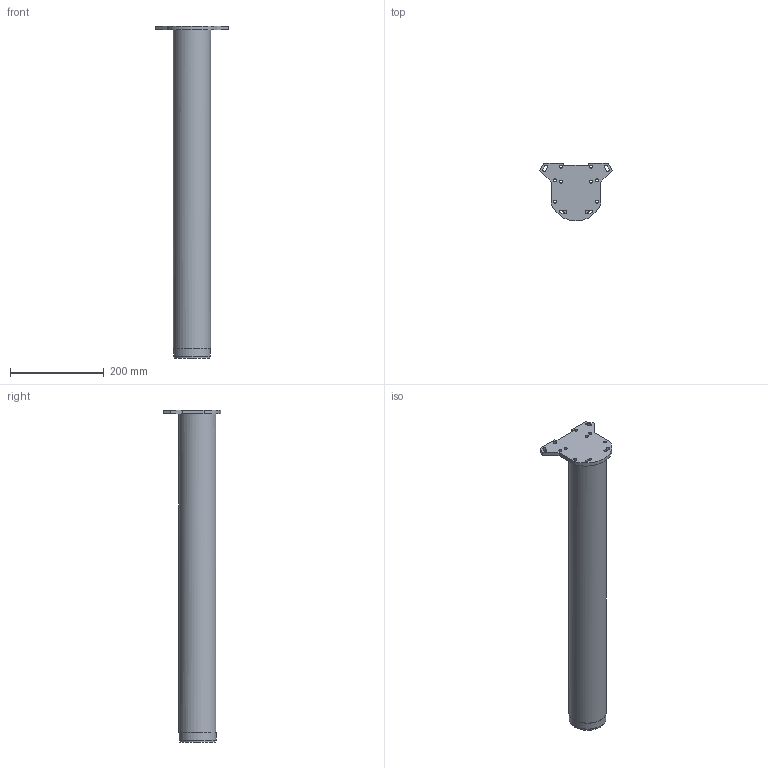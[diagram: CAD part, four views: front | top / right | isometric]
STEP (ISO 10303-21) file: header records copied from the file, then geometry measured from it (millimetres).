
FILE_DESCRIPTION( ( 'STEP AP214' ), '1' );
FILE_NAME( 'D:/Yug/2021/Desk_and_office_organisation/Correction in table leg fixing/QC/70143.stp', '2021-08-12T07:57:25', ( '' ), ( '' ), ' ', 'PARTsolutions', ' ' );
FILE_SCHEMA( ( 'AUTOMOTIVE_DESIGN { 1 0 10303 214 1 1 1 1 }' ) );
Length unit declared in the file: millimetre
Products named in the file (1): _70143
Bounding box: 155.69 x 124 x 710 mm (x, y, z)
Volume: 3624481.8 mm3; surface area: 207807.9 mm2
Topology: 1 solids, 1 shells, 46 faces, 125 edges, 82 vertices
Faces by surface type: plane 26, cylinder 20
Full cylindrical faces by diameter (mm): 6.5 x8, 76 x1, 79 x1, 80 x1
Entity records: 1830 total; most frequent: DIRECTION 252, CARTESIAN_POINT 241, ORIENTED_EDGE 226, EDGE_CURVE 113, AXIS2_PLACEMENT_3D 92, EDGE_LOOP 82, VERTEX_POINT 81, LINE 68
